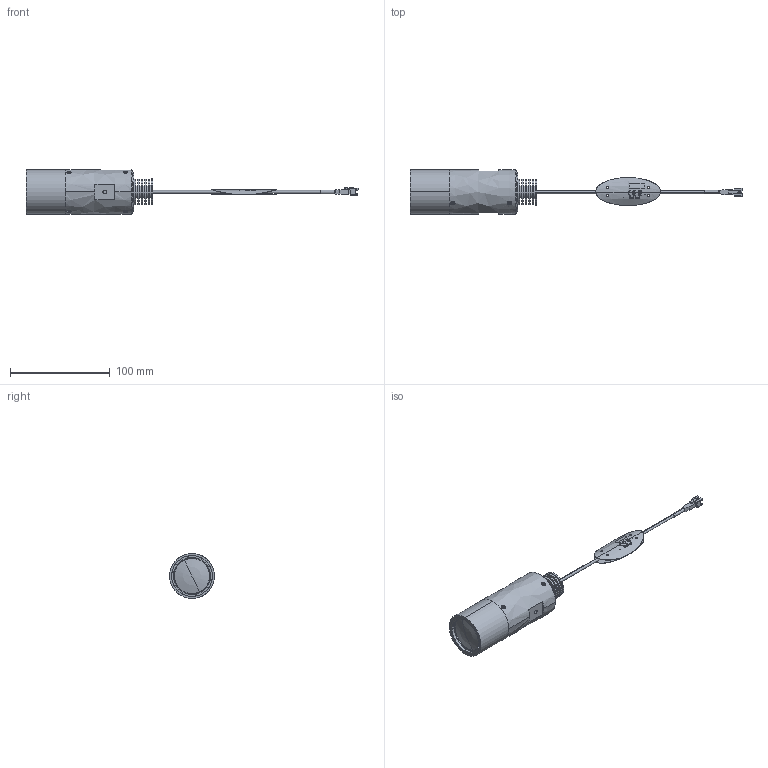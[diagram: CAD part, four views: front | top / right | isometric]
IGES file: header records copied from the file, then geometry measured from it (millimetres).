
Start section: 3D InterOp IGES (v. 2019 1.0.2), Spatial Corp. Copyright (c) 1999-2017.
Global section: file name: VCL-30-2P_DRAWING_3D.iges; native system: Spatial Corp.; preprocessor: 3D InterOp ACIS/IGES; author: Noname; organization: Noname; date: 20240304.115213; units: millimetre
Bounding box: 333.47 x 45 x 45 mm (x, y, z)
Surface area: 62236.6 mm2 (no closed solid volume)
Topology: 0 solids, 0 shells, 864 faces, 8360 edges, 8340 vertices
Faces by surface type: revolution 582, extrusion 245, bspline 37
